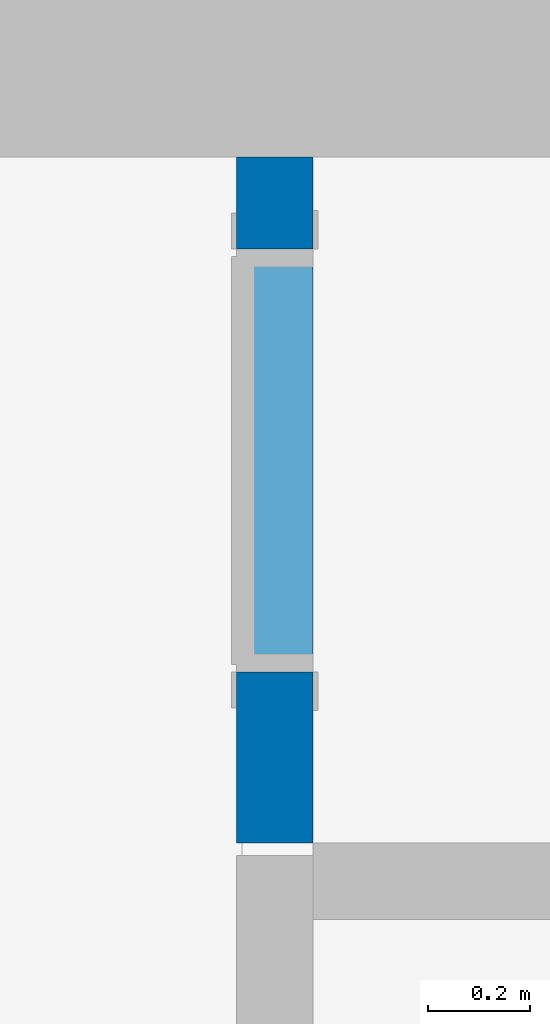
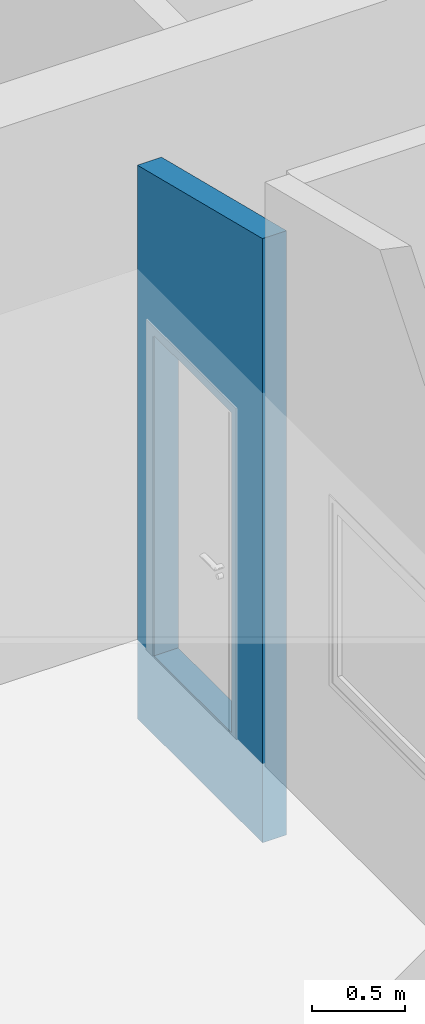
# One storey, part 126 of 153: 1 wall, 1 opening.
"""IFC4 building model written with IfcOpenShell, lengths in metres."""

from ifc_helpers import new_model, entity, si_unit, converted_unit, derived_unit, direction, frame, origin, place, context, subcontext, project, spatial, indexed_curve, outline, extrude, polygons, material, type_object, element, save


model = new_model("IFC4")

# Units and contexts
model_context = context("Model", 3, precision=1e-05, world=origin(), true_north=direction((6.123031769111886e-17, 1.0)))
body_context = subcontext(model_context, "Body", "Model", "MODEL_VIEW")
ifc_project = project(units=[si_unit("LENGTHUNIT", "METRE"), si_unit("AREAUNIT", "SQUARE_METRE"), si_unit("VOLUMEUNIT", "CUBIC_METRE"), converted_unit("PLANEANGLEUNIT", "DEGREE", entity("IfcRatioMeasure", 0.017453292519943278), si_unit("PLANEANGLEUNIT", "RADIAN"), dimensions=[0, 0, 0, 0, 0, 0, 0]), si_unit("MASSUNIT", "GRAM", prefix="KILO"), derived_unit("MASSDENSITYUNIT", [(si_unit("MASSUNIT", "GRAM", prefix="KILO"), 1), (si_unit("LENGTHUNIT", "METRE"), -3)]), derived_unit("MOMENTOFINERTIAUNIT", [(si_unit("LENGTHUNIT", "METRE"), 4)]), si_unit("TIMEUNIT", "SECOND"), si_unit("FREQUENCYUNIT", "HERTZ"), si_unit("THERMODYNAMICTEMPERATUREUNIT", "DEGREE_CELSIUS"), derived_unit("THERMALTRANSMITTANCEUNIT", [(si_unit("MASSUNIT", "GRAM", prefix="KILO"), 1), (si_unit("THERMODYNAMICTEMPERATUREUNIT", "KELVIN"), -1), (si_unit("TIMEUNIT", "SECOND"), -3)]), derived_unit("VOLUMETRICFLOWRATEUNIT", [(si_unit("LENGTHUNIT", "METRE"), 3), (si_unit("TIMEUNIT", "SECOND"), -1)]), derived_unit("MASSFLOWRATEUNIT", [(si_unit("MASSUNIT", "GRAM", prefix="KILO"), 1), (si_unit("TIMEUNIT", "SECOND"), -1)]), derived_unit("ROTATIONALFREQUENCYUNIT", [(si_unit("TIMEUNIT", "SECOND"), -1)]), si_unit("ELECTRICCURRENTUNIT", "AMPERE"), si_unit("ELECTRICVOLTAGEUNIT", "VOLT"), si_unit("POWERUNIT", "WATT"), si_unit("FORCEUNIT", "NEWTON", prefix="KILO"), si_unit("ILLUMINANCEUNIT", "LUX"), si_unit("LUMINOUSFLUXUNIT", "LUMEN"), si_unit("LUMINOUSINTENSITYUNIT", "CANDELA"), derived_unit("USERDEFINED", [(si_unit("MASSUNIT", "GRAM", prefix="KILO"), -1), (si_unit("LENGTHUNIT", "METRE"), -2), (si_unit("TIMEUNIT", "SECOND"), 3), (si_unit("LUMINOUSFLUXUNIT", "LUMEN"), 1)]), derived_unit("SOUNDPOWERUNIT", [(si_unit("MASSUNIT", "GRAM", prefix="KILO"), 1), (si_unit("LENGTHUNIT", "METRE"), 2), (si_unit("TIMEUNIT", "SECOND"), -3)]), derived_unit("SOUNDPRESSUREUNIT", [(si_unit("MASSUNIT", "GRAM", prefix="KILO"), 1), (si_unit("LENGTHUNIT", "METRE"), -1), (si_unit("TIMEUNIT", "SECOND"), -2)]), derived_unit("LINEARVELOCITYUNIT", [(si_unit("LENGTHUNIT", "METRE"), 1), (si_unit("TIMEUNIT", "SECOND"), -1)]), si_unit("PRESSUREUNIT", "PASCAL"), derived_unit("USERDEFINED", [(si_unit("LENGTHUNIT", "METRE"), -2), (si_unit("MASSUNIT", "GRAM", prefix="KILO"), 1), (si_unit("TIMEUNIT", "SECOND"), -2)]), derived_unit("LINEARFORCEUNIT", [(si_unit("MASSUNIT", "GRAM", prefix="KILO"), 1), (si_unit("LENGTHUNIT", "METRE"), 1), (si_unit("TIMEUNIT", "SECOND"), -2), (si_unit("LENGTHUNIT", "METRE"), -1)]), derived_unit("PLANARFORCEUNIT", [(si_unit("MASSUNIT", "GRAM", prefix="KILO"), 1), (si_unit("LENGTHUNIT", "METRE"), 1), (si_unit("TIMEUNIT", "SECOND"), -2), (si_unit("LENGTHUNIT", "METRE"), -2)])], contexts=[model_context])

# Site, building, storey
site_placement = place(None, origin())
site = spatial("IfcSite", under=ifc_project, at=site_placement, Name="Superficie", CompositionType="ELEMENT")
building_placement = place(site_placement, origin())
building = spatial("IfcBuilding", under=site, at=building_placement, CompositionType="ELEMENT")
storey_placement = place(building_placement, frame((0.0, 0.0, 3.5999999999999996)))
storey = spatial("IfcBuildingStorey", under=building, at=storey_placement, Name="Nivel 1", CompositionType="ELEMENT", Elevation=3.5999999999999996)

# Wall, opening
ifc_material = material(Name="Muro por defecto", Category="Varios")
wall_type = type_object("IfcWallType", Name="Muro básico:Por defecto - 15 cm 2", PredefinedType="STANDARD")
wall_placement = place(storey_placement, frame((-15.22399804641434, 10.370829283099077, 0.0), z_axis=(0.0, 0.0, 1.0), x_axis=(0.0, -1.0, 0.0)))
wall = element("IfcWall", 1, at=wall_placement, inside=storey, type_object=wall_type, material=ifc_material, Name="Muro básico:Por defecto - 15 cm 2", ObjectType="Muro básico:Por defecto - 15 cm 2", PredefinedType="NOTDEFINED", context=body_context, shape_type="Tessellation", body=[
    polygons([(0.0, -0.07500000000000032, 5.414335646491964e-16), (1.3450000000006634, -0.07499999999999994, 5.414335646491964e-16), (1.3450000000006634, -0.07499999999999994, 3.9629790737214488), (1.5160139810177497e-14, -0.07500000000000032, 3.6295079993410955), (0.18000000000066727, -0.07499999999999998, 0.5200000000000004), (0.18000000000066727, -0.07499999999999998, 2.6199999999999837), (1.010000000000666, -0.07500000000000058, 2.6199999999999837), (1.010000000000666, -0.07500000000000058, 0.5200000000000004), (1.3450000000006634, 0.07500000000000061, 5.414335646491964e-16), (0.0, 0.07500000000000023, 5.414335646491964e-16), (0.0, 0.07500000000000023, 3.6295079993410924), (1.3450000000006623, 0.07500000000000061, 3.9629790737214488), (0.18000000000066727, 0.07500000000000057, 2.6199999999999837), (0.18000000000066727, 0.07500000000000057, 0.5200000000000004), (1.010000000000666, 0.07499999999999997, 0.5200000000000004), (1.010000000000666, 0.07499999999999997, 2.6199999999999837)], [[[1, 2, 3, 4], [5, 6, 7, 8]], [[9, 10, 11, 12], [13, 14, 15, 16]], [[2, 1, 10, 9]], [[3, 2, 9, 12]], [[1, 4, 11, 10]], [[5, 14, 13, 6]], [[6, 13, 16, 7]], [[7, 16, 15, 8]], [[14, 5, 8, 15]], [[4, 3, 12, 11]]], closed=True),
])
opening_placement = place(wall_placement, frame((1.010000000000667, 0.07500000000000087, 0.5200000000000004)))
element("IfcOpeningElement", 2, at=opening_placement, cuts=wall, Name="Puerta de 1 hoja:83 x 210 cm 3:1", PredefinedType="OPENING", context=body_context, shape_type="SweptSolid", body=[
    extrude(outline(indexed_curve([(0.0, 0.8299999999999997), (0.0, -1.1311778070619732e-30), (2.099999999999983, -1.1311778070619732e-30), (2.099999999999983, 0.8299999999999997), (0.0, 0.8299999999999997)], self_intersect=False)), frame((0.0, 0.0, 0.0), z_axis=(0.0, -1.0, 0.0), x_axis=(0.0, 0.0, 1.0)), (0.0, 0.0, 1.0), 0.14999999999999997),
])

save(model, "model.ifc")
